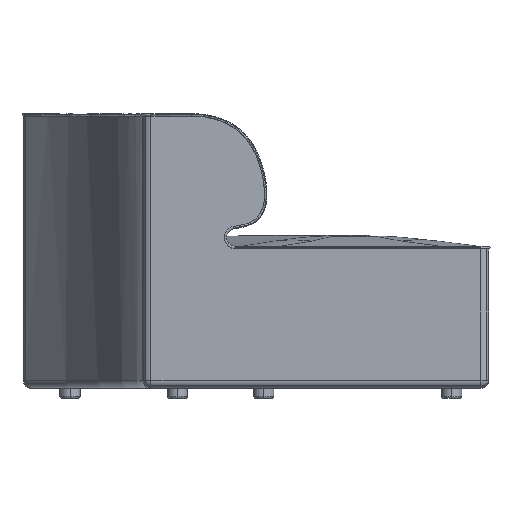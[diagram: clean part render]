
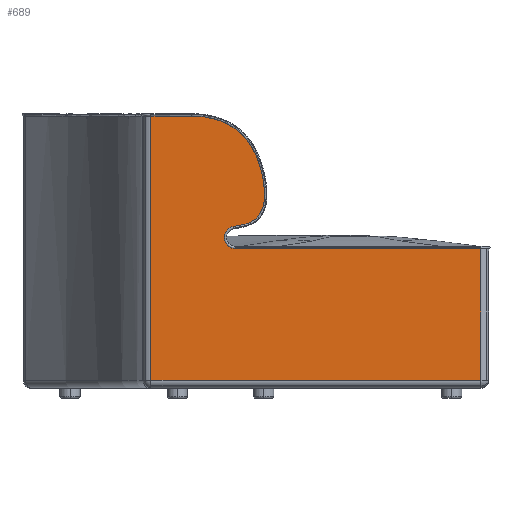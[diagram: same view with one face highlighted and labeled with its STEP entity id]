
A CAD part, left-side view. The second image highlights one B-rep face of the part: STEP entity #689.
In plain terms, the highlighted planar face has unit normal (-1, 0, 0).
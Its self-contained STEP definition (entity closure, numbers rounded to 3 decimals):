
#111 = VERTEX_POINT ( 'NONE', #7301 ) ;
#248 = DIRECTION ( 'NONE',  ( 0., 0., -1. ) ) ;
#277 = PLANE ( 'NONE',  #10383 ) ;
#447 = CARTESIAN_POINT ( 'NONE',  ( -3620., -1569.623, 649.442 ) ) ;
#496 = CARTESIAN_POINT ( 'NONE',  ( -3620., -1591.064, 434.54 ) ) ;
#689 = ADVANCED_FACE ( 'NONE', ( #9817 ), #277, .F. ) ;
#885 = DIRECTION ( 'NONE',  ( -1., 0., 0. ) ) ;
#1099 = CARTESIAN_POINT ( 'NONE',  ( -3620., -1339.812, 360. ) ) ;
#1134 = VECTOR ( 'NONE', #4864, 1000. ) ;
#1242 = ORIENTED_EDGE ( 'NONE', *, *, #2383, .F. ) ;
#1295 = CARTESIAN_POINT ( 'NONE',  ( -3620., -1608.596, 450.228 ) ) ;
#1648 = ORIENTED_EDGE ( 'NONE', *, *, #3742, .F. ) ;
#1863 = EDGE_CURVE ( 'NONE', #9155, #10111, #4029, .T. ) ;
#1935 = CARTESIAN_POINT ( 'NONE',  ( -3620., -1523.027, 681.636 ) ) ;
#1985 = CARTESIAN_POINT ( 'NONE',  ( -3620., -1572.42, 427.844 ) ) ;
#1994 = EDGE_CURVE ( 'NONE', #10111, #3698, #7726, .T. ) ;
#2040 = CARTESIAN_POINT ( 'NONE',  ( -3620., -1603.846, 444.569 ) ) ;
#2383 = EDGE_CURVE ( 'NONE', #4444, #5986, #8346, .T. ) ;
#2424 = CARTESIAN_POINT ( 'NONE',  ( -3620., -2159.894, 367. ) ) ;
#2460 = B_SPLINE_CURVE_WITH_KNOTS ( 'NONE', 3,
 ( #5108, #4315, #3572, #1935, #6013, #447, #3677, #6063, #8387, #4368, #10035, #6171, #9287, #1295, #2040, #496, #6913, #1985, #8494, #6962, #3728 ),
 .UNSPECIFIED., .F., .F.,
 ( 4, 2, 2, 2, 2, 2, 2, 2, 2, 1, 4 ),
 ( 0., 0.066, 0.116, 0.173, 0.27, 0.318, 0.346, 0.37, 0.398, 0.412, 0.426 ),
 .UNSPECIFIED. ) ;
#2565 = DIRECTION ( 'NONE',  ( 0., 1., 0. ) ) ;
#2769 = VERTEX_POINT ( 'NONE', #9337 ) ;
#2864 = ORIENTED_EDGE ( 'NONE', *, *, #2972, .F. ) ;
#2865 = DIRECTION ( 'NONE',  ( 0., 0., -1. ) ) ;
#2972 = EDGE_CURVE ( 'NONE', #3698, #4444, #4754, .T. ) ;
#3400 = ORIENTED_EDGE ( 'NONE', *, *, #9233, .F. ) ;
#3509 = DIRECTION ( 'NONE',  ( 1., 0., 0. ) ) ;
#3561 = CARTESIAN_POINT ( 'NONE',  ( -3620., -1972.875, 459.548 ) ) ;
#3572 = CARTESIAN_POINT ( 'NONE',  ( -3620., -1483.366, 694.644 ) ) ;
#3677 = CARTESIAN_POINT ( 'NONE',  ( -3620., -1582.396, 633.849 ) ) ;
#3698 = VERTEX_POINT ( 'NONE', #10293 ) ;
#3711 = AXIS2_PLACEMENT_3D ( 'NONE', #10262, #885, #248 ) ;
#3728 = CARTESIAN_POINT ( 'NONE',  ( -3620., -1545.521, 422.639 ) ) ;
#3742 = EDGE_CURVE ( 'NONE', #5986, #111, #9336, .T. ) ;
#4029 = LINE ( 'NONE', #8958, #10119 ) ;
#4117 = CARTESIAN_POINT ( 'NONE',  ( -3620., -1339.812, 40. ) ) ;
#4253 = EDGE_CURVE ( 'NONE', #2769, #9155, #6928, .T. ) ;
#4315 = CARTESIAN_POINT ( 'NONE',  ( -3620., -1460.518, 697.001 ) ) ;
#4368 = CARTESIAN_POINT ( 'NONE',  ( -3620., -1622.364, 512.379 ) ) ;
#4444 = VERTEX_POINT ( 'NONE', #4117 ) ;
#4754 = LINE ( 'NONE', #8726, #1134 ) ;
#4864 = DIRECTION ( 'NONE',  ( 0., 1., 0. ) ) ;
#5041 = VECTOR ( 'NONE', #2865, 1000. ) ;
#5108 = CARTESIAN_POINT ( 'NONE',  ( -3620., -1440., 697. ) ) ;
#5986 = VERTEX_POINT ( 'NONE', #7152 ) ;
#6013 = CARTESIAN_POINT ( 'NONE',  ( -3620., -1539.094, 673.355 ) ) ;
#6063 = CARTESIAN_POINT ( 'NONE',  ( -3620., -1609.72, 585.095 ) ) ;
#6171 = CARTESIAN_POINT ( 'NONE',  ( -3620., -1619.124, 472.63 ) ) ;
#6529 = DIRECTION ( 'NONE',  ( 0., -1., 0. ) ) ;
#6592 = VECTOR ( 'NONE', #10186, 1000. ) ;
#6793 = ORIENTED_EDGE ( 'NONE', *, *, #4253, .F. ) ;
#6913 = CARTESIAN_POINT ( 'NONE',  ( -3620., -1583.551, 431.266 ) ) ;
#6928 = CIRCLE ( 'NONE', #3711, 28. ) ;
#6962 = CARTESIAN_POINT ( 'NONE',  ( -3620., -1553.04, 423.857 ) ) ;
#7152 = CARTESIAN_POINT ( 'NONE',  ( -3620., -1339.812, 697. ) ) ;
#7301 = CARTESIAN_POINT ( 'NONE',  ( -3620., -1440., 697. ) ) ;
#7622 = CARTESIAN_POINT ( 'NONE',  ( -3620., -2159.894, 195. ) ) ;
#7700 = CARTESIAN_POINT ( 'NONE',  ( -3620., -1550., 367. ) ) ;
#7726 = LINE ( 'NONE', #7622, #5041 ) ;
#8346 = LINE ( 'NONE', #1099, #8425 ) ;
#8387 = CARTESIAN_POINT ( 'NONE',  ( -3620., -1618.069, 549.316 ) ) ;
#8425 = VECTOR ( 'NONE', #9933, 1000. ) ;
#8494 = CARTESIAN_POINT ( 'NONE',  ( -3620., -1564.668, 425.897 ) ) ;
#8643 = CARTESIAN_POINT ( 'NONE',  ( -3620., -1440., 697. ) ) ;
#8726 = CARTESIAN_POINT ( 'NONE',  ( -3620., -2076.438, 40. ) ) ;
#8883 = EDGE_LOOP ( 'NONE', ( #10003, #6793, #3400, #1648, #1242, #2864, #10074 ) ) ;
#8958 = CARTESIAN_POINT ( 'NONE',  ( -3620., -2083.511, 367. ) ) ;
#9155 = VERTEX_POINT ( 'NONE', #7700 ) ;
#9233 = EDGE_CURVE ( 'NONE', #111, #2769, #2460, .T. ) ;
#9287 = CARTESIAN_POINT ( 'NONE',  ( -3620., -1616.507, 464.301 ) ) ;
#9336 = LINE ( 'NONE', #8643, #6592 ) ;
#9337 = CARTESIAN_POINT ( 'NONE',  ( -3620., -1545.521, 422.639 ) ) ;
#9817 = FACE_OUTER_BOUND ( 'NONE', #8883, .T. ) ;
#9933 = DIRECTION ( 'NONE',  ( 0., 0., 1. ) ) ;
#10003 = ORIENTED_EDGE ( 'NONE', *, *, #1863, .F. ) ;
#10035 = CARTESIAN_POINT ( 'NONE',  ( -3620., -1623.232, 496.353 ) ) ;
#10074 = ORIENTED_EDGE ( 'NONE', *, *, #1994, .F. ) ;
#10111 = VERTEX_POINT ( 'NONE', #2424 ) ;
#10119 = VECTOR ( 'NONE', #6529, 1000. ) ;
#10186 = DIRECTION ( 'NONE',  ( 0., -1., 0. ) ) ;
#10262 = CARTESIAN_POINT ( 'NONE',  ( -3620., -1550., 395. ) ) ;
#10293 = CARTESIAN_POINT ( 'NONE',  ( -3620., -2159.894, 40. ) ) ;
#10383 = AXIS2_PLACEMENT_3D ( 'NONE', #3561, #3509, #2565 ) ;
